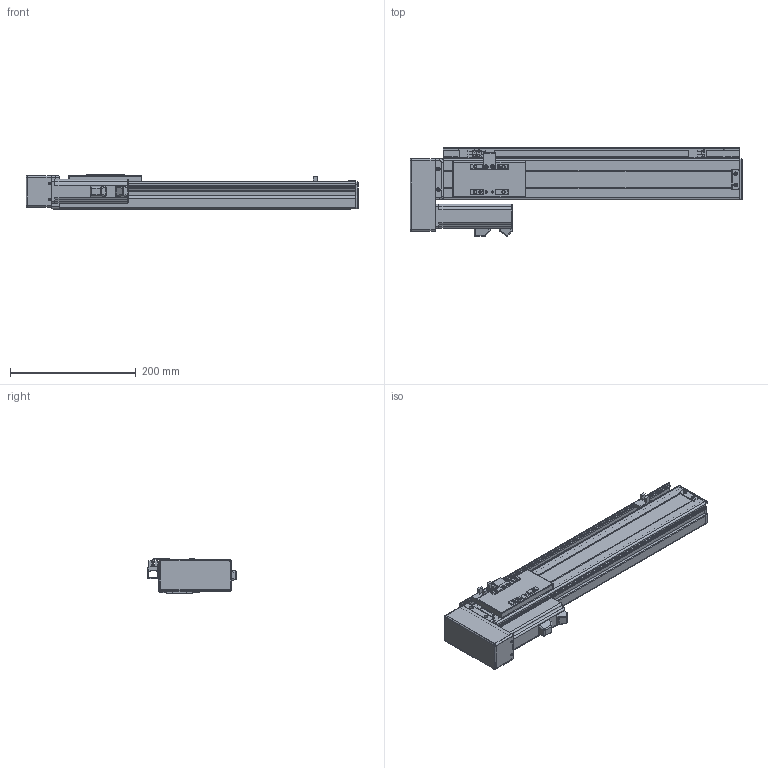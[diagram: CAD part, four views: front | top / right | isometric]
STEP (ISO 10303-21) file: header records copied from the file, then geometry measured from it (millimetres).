
FILE_DESCRIPTION (( 'STEP AP203' ), '1' );
FILE_NAME ('VT6-S320-BL.STEP', '2016-06-17T09:48:32', ( '' ), ( '' ), 'SwSTEP 2.0', 'SolidWorks 2013', '' );
FILE_SCHEMA (( 'CONFIG_CONTROL_DESIGN' ));
Length unit declared in the file: millimetre
Products named in the file (17): ET6-BLRM佪裝_320; T6-賑雄殤; T6-BMLRヶ傷裔; T6-裔啣; T6-BMRLヶ傷裔揤啣; T6-揤輸; VT6-S320-BL; T6-BMRL肮祭湍謫欶; T6-覜茼え; T6-BRL萇儂假蚾啣; T6-綴傷裔; 侂狟100W MSMD012G1V; EE-XS674; ET6-BLRM絳寢_俴最320; ET6-BC耜啣_320; ET6-BLRM滅鳥湍_320; ET6-BC癹弇羲壽羞_320
Assembly tree (19 placements, depth 2):
  VT6-S320-BL
    ET6-BC耜啣_320  x2
    ET6-BC癹弇羲壽羞_320
    T6-賑雄殤
    T6-裔啣
    T6-揤輸
    T6-覜茼え
    T6-綴傷裔
    EE-XS674  x3
    ET6-BLRM絳寢_俴最320
    ET6-BLRM滅鳥湍_320
    ET6-BLRM佪裝_320
    T6-BMLRヶ傷裔
    T6-BMRLヶ傷裔揤啣
    T6-BMRL肮祭湍謫欶
    T6-BRL萇儂假蚾啣
    侂狟100W MSMD012G1V
Bounding box: 527 x 141 x 56 mm (x, y, z)
Volume: 749564.3 mm3; surface area: 435087.8 mm2
Topology: 19 solids, 19 shells, 889 faces, 2352 edges, 1488 vertices
Faces by surface type: cylinder 415, plane 374, cone 46, torus 36, sphere 18
Entity records: 27397 total; most frequent: CARTESIAN_POINT 4609, DIRECTION 4574, ORIENTED_EDGE 4222, EDGE_CURVE 2111, AXIS2_PLACEMENT_3D 1673, VERTEX_POINT 1348, VECTOR 1228, LINE 1228
